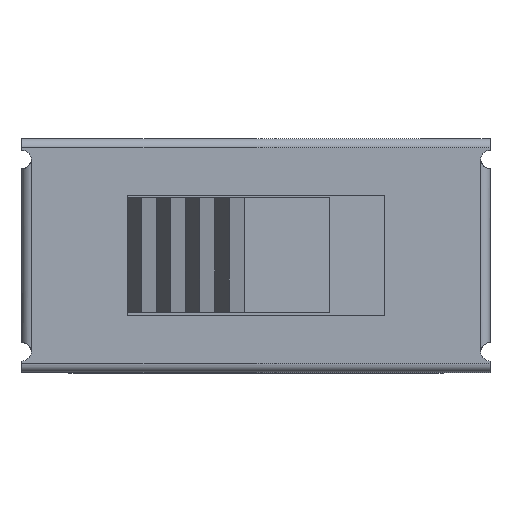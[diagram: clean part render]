
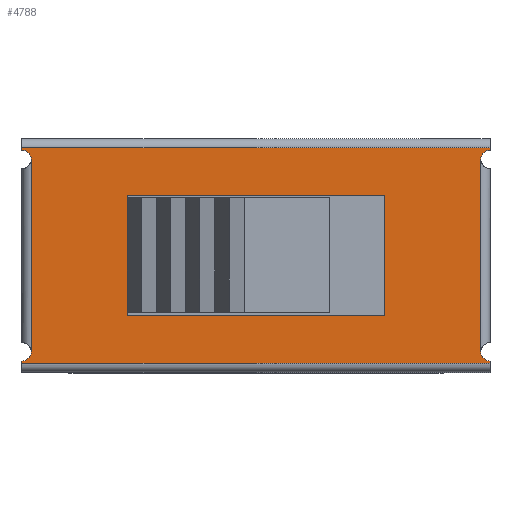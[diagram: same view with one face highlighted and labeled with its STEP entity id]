
A CAD part, top view. The second image highlights one B-rep face of the part: STEP entity #4788.
In plain terms, the highlighted planar face has unit normal (0, 0, 1).
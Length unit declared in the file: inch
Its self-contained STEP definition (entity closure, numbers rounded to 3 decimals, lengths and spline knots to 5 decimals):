
#18=FACE_BOUND('',#772,.T.);
#231=PLANE('',#5182);
#503=FACE_OUTER_BOUND('',#771,.T.);
#771=EDGE_LOOP('',(#4261,#4262,#4263,#4264,#4265,#4266,#4267,#4268,#4269,
#4270,#4271,#4272));
#772=EDGE_LOOP('',(#4273,#4274,#4275,#4276));
#1225=LINE('',#8274,#1748);
#1232=LINE('',#8289,#1755);
#1238=LINE('',#8303,#1761);
#1262=LINE('',#8392,#1785);
#1265=LINE('',#8401,#1788);
#1266=LINE('',#8405,#1789);
#1267=LINE('',#8408,#1790);
#1268=LINE('',#8409,#1791);
#1269=LINE('',#8412,#1792);
#1270=LINE('',#8414,#1793);
#1271=LINE('',#8416,#1794);
#1272=LINE('',#8417,#1795);
#1748=VECTOR('',#6242,0.3937);
#1755=VECTOR('',#6259,0.3937);
#1761=VECTOR('',#6271,0.3937);
#1785=VECTOR('',#6325,0.3937);
#1788=VECTOR('',#6338,0.3937);
#1789=VECTOR('',#6341,0.3937);
#1790=VECTOR('',#6344,0.3937);
#1791=VECTOR('',#6345,0.3937);
#1792=VECTOR('',#6346,0.3937);
#1793=VECTOR('',#6347,0.3937);
#1794=VECTOR('',#6348,0.3937);
#1795=VECTOR('',#6349,0.3937);
#1971=CIRCLE('',#5180,0.00787);
#1973=CIRCLE('',#5183,0.00787);
#1974=CIRCLE('',#5184,0.00787);
#1975=CIRCLE('',#5185,0.00787);
#2346=VERTEX_POINT('',#8271);
#2347=VERTEX_POINT('',#8273);
#2349=VERTEX_POINT('',#8286);
#2350=VERTEX_POINT('',#8288);
#2354=VERTEX_POINT('',#8300);
#2355=VERTEX_POINT('',#8302);
#2370=VERTEX_POINT('',#8355);
#2373=VERTEX_POINT('',#8375);
#2374=VERTEX_POINT('',#8394);
#2375=VERTEX_POINT('',#8402);
#2376=VERTEX_POINT('',#8404);
#2377=VERTEX_POINT('',#8407);
#2378=VERTEX_POINT('',#8410);
#2379=VERTEX_POINT('',#8411);
#2380=VERTEX_POINT('',#8413);
#2381=VERTEX_POINT('',#8415);
#2979=EDGE_CURVE('',#2346,#2347,#1225,.T.);
#2987=EDGE_CURVE('',#2349,#2350,#1232,.T.);
#2994=EDGE_CURVE('',#2354,#2355,#1238,.T.);
#3023=EDGE_CURVE('',#2373,#2370,#1262,.T.);
#3024=EDGE_CURVE('',#2374,#2370,#1971,.T.);
#3028=EDGE_CURVE('',#2373,#2347,#1973,.T.);
#3029=EDGE_CURVE('',#2355,#2346,#1265,.T.);
#3030=EDGE_CURVE('',#2354,#2375,#1974,.T.);
#3031=EDGE_CURVE('',#2376,#2375,#1266,.T.);
#3032=EDGE_CURVE('',#2376,#2350,#1975,.T.);
#3033=EDGE_CURVE('',#2377,#2349,#1267,.T.);
#3034=EDGE_CURVE('',#2374,#2377,#1268,.T.);
#3035=EDGE_CURVE('',#2378,#2379,#1269,.T.);
#3036=EDGE_CURVE('',#2379,#2380,#1270,.T.);
#3037=EDGE_CURVE('',#2380,#2381,#1271,.T.);
#3038=EDGE_CURVE('',#2381,#2378,#1272,.T.);
#4261=ORIENTED_EDGE('',*,*,#3023,.F.);
#4262=ORIENTED_EDGE('',*,*,#3028,.T.);
#4263=ORIENTED_EDGE('',*,*,#2979,.F.);
#4264=ORIENTED_EDGE('',*,*,#3029,.F.);
#4265=ORIENTED_EDGE('',*,*,#2994,.F.);
#4266=ORIENTED_EDGE('',*,*,#3030,.T.);
#4267=ORIENTED_EDGE('',*,*,#3031,.F.);
#4268=ORIENTED_EDGE('',*,*,#3032,.T.);
#4269=ORIENTED_EDGE('',*,*,#2987,.F.);
#4270=ORIENTED_EDGE('',*,*,#3033,.F.);
#4271=ORIENTED_EDGE('',*,*,#3034,.F.);
#4272=ORIENTED_EDGE('',*,*,#3024,.T.);
#4273=ORIENTED_EDGE('',*,*,#3035,.T.);
#4274=ORIENTED_EDGE('',*,*,#3036,.T.);
#4275=ORIENTED_EDGE('',*,*,#3037,.T.);
#4276=ORIENTED_EDGE('',*,*,#3038,.T.);
#4788=ADVANCED_FACE('',(#503,#18),#231,.T.);
#5180=AXIS2_PLACEMENT_3D('',#8395,#6328,#6329);
#5182=AXIS2_PLACEMENT_3D('',#8399,#6334,#6335);
#5183=AXIS2_PLACEMENT_3D('',#8400,#6336,#6337);
#5184=AXIS2_PLACEMENT_3D('',#8403,#6339,#6340);
#5185=AXIS2_PLACEMENT_3D('',#8406,#6342,#6343);
#6242=DIRECTION('',(0.,1.,0.));
#6259=DIRECTION('',(0.,-1.,0.));
#6271=DIRECTION('',(0.,-1.,0.));
#6325=DIRECTION('',(0.,1.,0.));
#6328=DIRECTION('center_axis',(0.,0.,
-1.));
#6329=DIRECTION('ref_axis',(0.,1.,0.));
#6334=DIRECTION('center_axis',(0.,0.,
1.));
#6335=DIRECTION('ref_axis',(-1.,0.,0.));
#6336=DIRECTION('center_axis',(0.,0.,
-1.));
#6337=DIRECTION('ref_axis',(0.,1.,0.));
#6338=DIRECTION('',(-1.,0.,0.));
#6339=DIRECTION('center_axis',(0.,0.,
-1.));
#6340=DIRECTION('ref_axis',(0.,-1.,0.));
#6341=DIRECTION('',(0.,-1.,0.));
#6342=DIRECTION('center_axis',(0.,0.,
-1.));
#6343=DIRECTION('ref_axis',(0.,-1.,0.));
#6344=DIRECTION('',(1.,0.,0.));
#6345=DIRECTION('',(0.,1.,0.));
#6346=DIRECTION('',(0.,-1.,0.));
#6347=DIRECTION('',(-1.,0.,0.));
#6348=DIRECTION('',(0.,1.,0.));
#6349=DIRECTION('',(1.,0.,0.));
#8271=CARTESIAN_POINT('',(-0.2,-0.09213,0.3622));
#8273=CARTESIAN_POINT('',(-0.2,-0.09016,0.3622));
#8274=CARTESIAN_POINT('',(-0.2,-0.1,0.3622));
#8286=CARTESIAN_POINT('',(0.2,0.09213,0.3622));
#8288=CARTESIAN_POINT('',(0.2,0.09016,0.3622));
#8289=CARTESIAN_POINT('',(0.2,0.1,0.3622));
#8300=CARTESIAN_POINT('',(0.2,-0.09016,0.3622));
#8302=CARTESIAN_POINT('',(0.2,-0.09213,0.3622));
#8303=CARTESIAN_POINT('',(0.2,0.1,0.3622));
#8355=CARTESIAN_POINT('',(-0.19213,0.08228,0.3622));
#8375=CARTESIAN_POINT('',(-0.19213,-0.08228,0.3622));
#8392=CARTESIAN_POINT('',(-0.19213,0.05,0.3622));
#8394=CARTESIAN_POINT('',(-0.2,0.09016,0.3622));
#8395=CARTESIAN_POINT('Origin',(-0.2,0.08228,0.3622));
#8399=CARTESIAN_POINT('Origin',(0.,0.,
0.3622));
#8400=CARTESIAN_POINT('Origin',(-0.2,-0.08228,0.3622));
#8401=CARTESIAN_POINT('',(-0.1,-0.09213,0.3622));
#8402=CARTESIAN_POINT('',(0.19213,-0.08228,0.3622));
#8403=CARTESIAN_POINT('Origin',(0.2,-0.08228,0.3622));
#8404=CARTESIAN_POINT('',(0.19213,0.08228,0.3622));
#8405=CARTESIAN_POINT('',(0.19213,-0.05,0.3622));
#8406=CARTESIAN_POINT('Origin',(0.2,0.08228,0.3622));
#8407=CARTESIAN_POINT('',(-0.2,0.09213,0.3622));
#8408=CARTESIAN_POINT('',(0.1,0.09213,0.3622));
#8409=CARTESIAN_POINT('',(-0.2,-0.1,0.3622));
#8410=CARTESIAN_POINT('',(0.11024,0.05118,0.3622));
#8411=CARTESIAN_POINT('',(0.11024,-0.05118,0.3622));
#8412=CARTESIAN_POINT('',(0.11024,-0.02559,0.3622));
#8413=CARTESIAN_POINT('',(-0.11024,-0.05118,0.3622));
#8414=CARTESIAN_POINT('',(-0.05512,-0.05118,0.3622));
#8415=CARTESIAN_POINT('',(-0.11024,0.05118,0.3622));
#8416=CARTESIAN_POINT('',(-0.11024,0.02559,0.3622));
#8417=CARTESIAN_POINT('',(0.05512,0.05118,0.3622));
